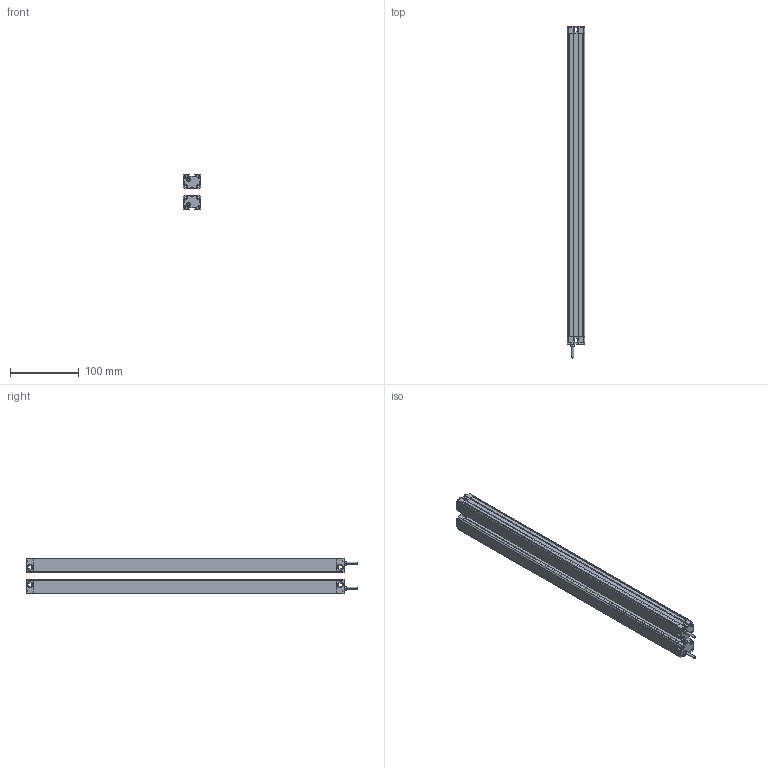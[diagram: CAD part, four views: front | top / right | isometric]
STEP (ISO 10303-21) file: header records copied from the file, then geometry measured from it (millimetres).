
FILE_DESCRIPTION (( 'STEP AP214' ), '1' );
FILE_NAME ('MTC4410.STEP', '2022-12-02T08:16:32', ( '' ), ( '' ), 'SwSTEP 2.0', 'SolidWorks 2018', '' );
FILE_SCHEMA (( 'AUTOMOTIVE_DESIGN' ));
Length unit declared in the file: millimetre
Products named in the file (5): P01^MTC; MTC waike^MTC; P02^MTC; 噩砃P02^MTC; MTC4410
Assembly tree (6 placements, depth 2):
  MTC4410
    MTC waike^MTC  x2
    P01^MTC  x2
    P02^MTC
    噩砃P02^MTC
Bounding box: 25 x 482 x 51.4 mm (x, y, z)
Volume: 157094.1 mm3; surface area: 212118.1 mm2
Topology: 8 solids, 8 shells, 480 faces, 1396 edges, 924 vertices
Faces by surface type: plane 272, cylinder 208
Entity records: 10886 total; most frequent: DIRECTION 1881, CARTESIAN_POINT 1878, ORIENTED_EDGE 1846, EDGE_CURVE 923, AXIS2_PLACEMENT_3D 637, VERTEX_POINT 610, LINE 607, VECTOR 607
